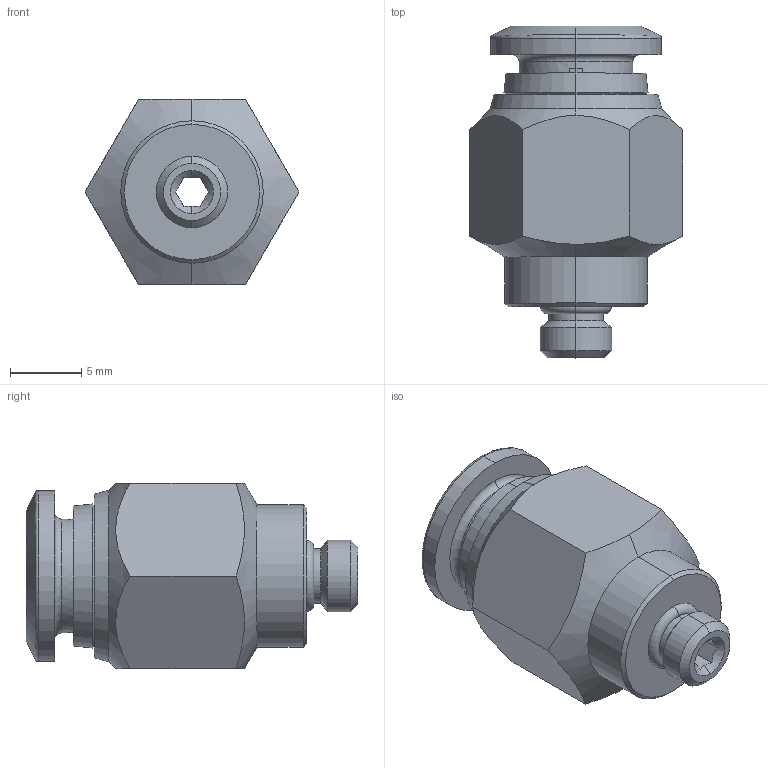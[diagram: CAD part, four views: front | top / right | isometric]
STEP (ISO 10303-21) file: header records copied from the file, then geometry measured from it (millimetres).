
FILE_DESCRIPTION (( 'STEP AP214' ), '1' );
FILE_NAME ('40020V0020A.STEP', '2024-10-21T12:24:08', ( '' ), ( '' ), 'SwSTEP 2.0', 'SolidWorks 2020', '' );
FILE_SCHEMA (( 'AUTOMOTIVE_DESIGN' ));
Length unit declared in the file: millimetre
Products named in the file (1): 40020V0020A
Bounding box: 15.01 x 23.3 x 13 mm (x, y, z)
Volume: 1772.6 mm3; surface area: 1494.7 mm2
Topology: 1 solids, 1 shells, 69 faces, 163 edges, 100 vertices
Faces by surface type: cone 24, plane 24, cylinder 15, torus 6
Entity records: 2887 total; most frequent: CARTESIAN_POINT 545, DIRECTION 337, ORIENTED_EDGE 326, EDGE_CURVE 163, AXIS2_PLACEMENT_3D 136, VERTEX_POINT 100, EDGE_LOOP 75, UNCERTAINTY_MEASURE_WITH_UNIT 69
